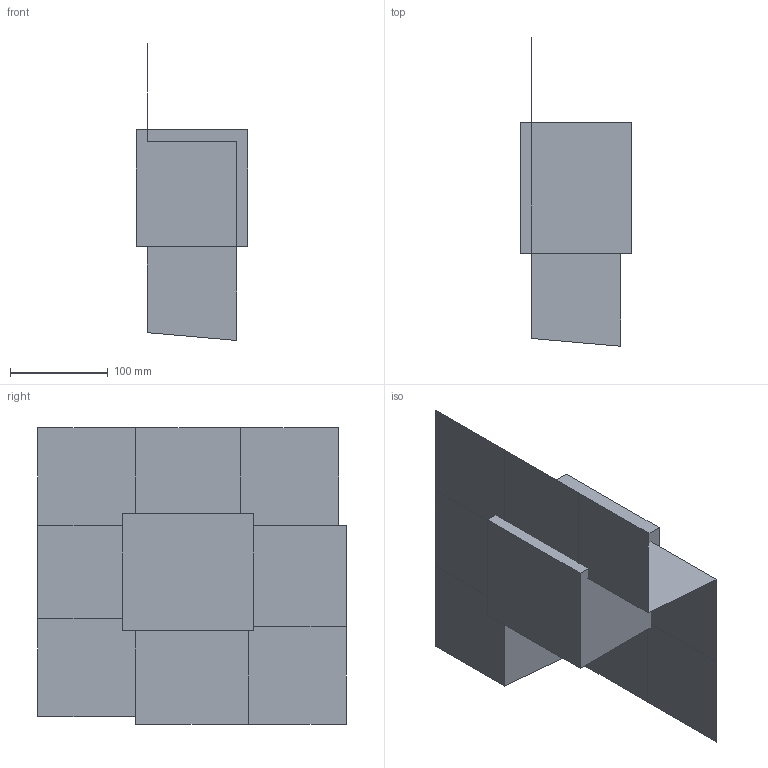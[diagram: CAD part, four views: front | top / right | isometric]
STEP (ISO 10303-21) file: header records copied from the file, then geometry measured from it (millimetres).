
FILE_DESCRIPTION(('CATIA V5 STEP Exchange'),'2;1');
FILE_NAME('C:\_Andres\UNIVERSIDAD\IQS\ASIGNATURAS\DAO\EXF\EXF-15161c\1original\Santolària_Rossell_Ej02-moldes_v24.stp','2016-03-04T15:45:44+00:00',('none'),('none'),'CATIA Version 5 Release 20 SP 1 (IN-10)','CATIA V5 STEP AP203','none');
FILE_SCHEMA(('CONFIG_CONTROL_DESIGN'));
Length unit declared in the file: millimetre
Products named in the file (1): Santolària_Rossell_Ej02-moldes_v24
Bounding box: 114 x 315.18 x 303.18 mm (x, y, z)
Volume: 3845800.6 mm3; surface area: 400225.4 mm2
Topology: 3 solids, 7 shells, 45 faces, 118 edges, 83 vertices
Faces by surface type: plane 41, cylinder 4
Entity records: 1101 total; most frequent: ORIENTED_EDGE 198, CARTESIAN_POINT 179, DIRECTION 147, EDGE_CURVE 83, VECTOR 73, LINE 73, VERTEX_POINT 56, EDGE_LOOP 49
